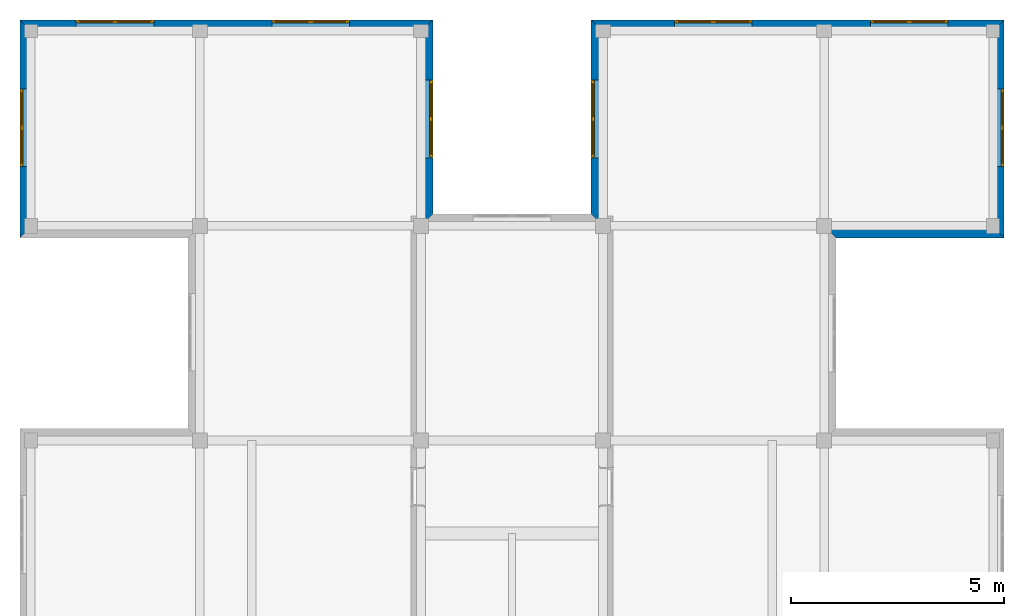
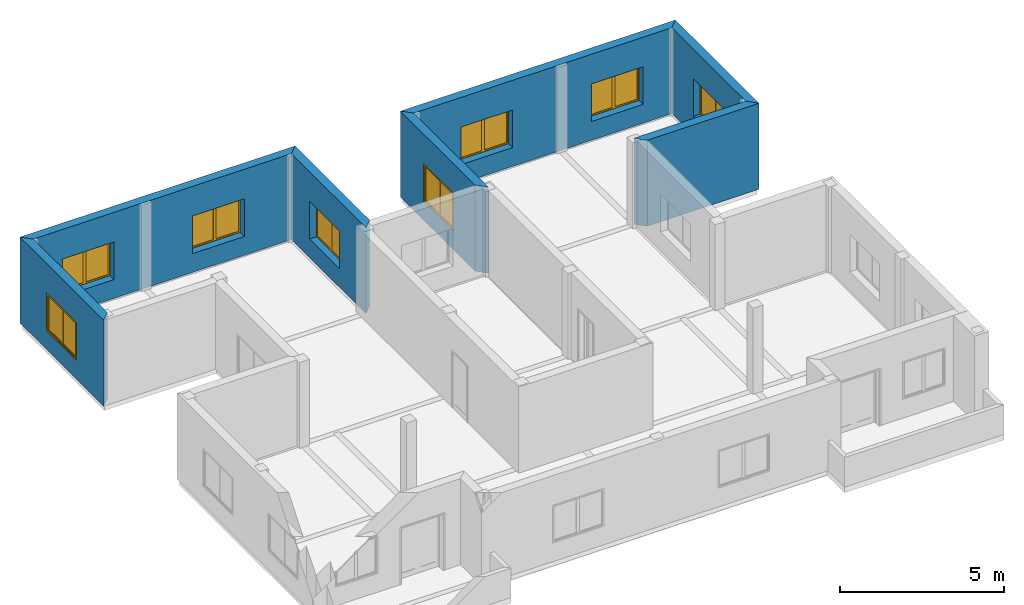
# One storey, part 6 of 6: 8 windows, 7 walls, 8 openings.
"""IFC2X3 building model written with IfcOpenShell, lengths in millimetres."""

import ifcopenshell
import ifcopenshell.guid

model = None  # the IFC model being written
_history = None  # IfcOwnerHistory: only IFC2X3 demands one
_inside = {}  # id of a spatial element -> (the spatial element, [elements in it])
_under = {}  # id of a project, library or spatial element -> (it, [spatial elements below it])
_declared = {}  # id of a project -> (the project, [libraries it declares])
_typed = {}  # id of a type object -> (the type object, [elements of that type])
_made_of = {}  # id of a material, layer set ... -> (it, [elements and type objects made of it])


def new_model(schema):
    """Start an empty IFC model of exactly this schema.

    Asked for "IFC4X3", IfcOpenShell would pick the latest addendum, in which some entities
    have other attributes; the version numbers below select the first issue.
    IFC2X3 requires an IfcOwnerHistory on every rooted entity: one is made here for all.
    """
    global model, _history
    if schema == "IFC4X3":
        model = ifcopenshell.file(schema_version=(4, 3, 0, 0))
    else:
        model = ifcopenshell.file(schema=schema)
    _inside.clear()
    _under.clear()
    _declared.clear()
    _typed.clear()
    _made_of.clear()
    _history = None
    if model.schema == "IFC2X3":
        org = make("IfcOrganization", Name="unknown")
        user = make(
            "IfcPersonAndOrganization",
            ThePerson=make("IfcPerson", FamilyName="unknown"),
            TheOrganization=org,
        )
        app = make(
            "IfcApplication",
            ApplicationDeveloper=org,
            Version="unknown",
            ApplicationFullName="unknown",
            ApplicationIdentifier="unknown",
        )
        _history = make(
            "IfcOwnerHistory",
            OwningUser=user,
            OwningApplication=app,
            ChangeAction="ADDED",
            CreationDate=0,
        )
    return model


def make(cls, **values):
    """One entity of the class cls with the attributes given. An attribute that is None is left unset."""
    return model.create_entity(
        cls, **{name: value for name, value in values.items() if value is not None}
    )


def entity(cls, *values):
    """Any entity or typed value of the class cls, its attributes in the order of the schema. None: left unset."""
    e = model.create_entity(cls)
    for i, value in enumerate(values):
        if value is not None:
            e[i] = value
    return e


def rooted(cls, **values):
    """An entity with a GlobalId (a new one), such as an element, a storey or a relation."""
    return make(cls, GlobalId=ifcopenshell.guid.new(), OwnerHistory=_history, **values)


def si_unit(unit_type, name, prefix=None):
    """IfcSIUnit, for example si_unit("LENGTHUNIT", "METRE", prefix="MILLI")."""
    return make("IfcSIUnit", UnitType=unit_type, Prefix=prefix, Name=name)


def converted_unit(unit_type, name, factor, base, dimensions=None, offset=None):
    """IfcConversionBasedUnit, such as the inch: factor (a typed value) times the base unit."""
    return make(
        "IfcConversionBasedUnit"
        if offset is None
        else "IfcConversionBasedUnitWithOffset",
        ConversionOffset=offset,
        Dimensions=None
        if dimensions is None
        else entity("IfcDimensionalExponents", *dimensions),
        UnitType=unit_type,
        Name=name,
        ConversionFactor=make(
            "IfcMeasureWithUnit", ValueComponent=factor, UnitComponent=base
        ),
    )


def assignment(units):
    """IfcUnitAssignment: the units of a project."""
    return None if units is None else make("IfcUnitAssignment", Units=units)


def point(xyz):
    """IfcCartesianPoint."""
    return None if xyz is None else make("IfcCartesianPoint", Coordinates=xyz)


def direction(xyz):
    """IfcDirection."""
    return None if xyz is None else make("IfcDirection", DirectionRatios=xyz)


def frame(location, z_axis=None, x_axis=None):
    """IfcAxis2Placement3D, a coordinate frame: its origin and axes. An axis left out is left unset."""
    return make(
        "IfcAxis2Placement3D",
        Location=point(location),
        Axis=direction(z_axis),
        RefDirection=direction(x_axis),
    )


def frame_2d(location, x_axis=None):
    """IfcAxis2Placement2D, a coordinate frame in the plane: its origin and x axis."""
    return make(
        "IfcAxis2Placement2D", Location=point(location), RefDirection=direction(x_axis)
    )


def origin_with_axes():
    """The frame at (0, 0, 0) with the z axis (0, 0, 1) and the x axis (1, 0, 0) written out."""
    return frame((0.0, 0.0, 0.0), z_axis=(0.0, 0.0, 1.0), x_axis=(1.0, 0.0, 0.0))


def origin_2d_with_axis():
    """The frame at (0, 0) in the plane with the x axis (1, 0) written out."""
    return frame_2d((0.0, 0.0), x_axis=(1.0, 0.0))


def place(relative_to, where):
    """IfcLocalPlacement: puts the frame where relative to a parent placement (None: the world)."""
    return make(
        "IfcLocalPlacement", PlacementRelTo=relative_to, RelativePlacement=where
    )


def context(
    kind, dimensions, precision=None, world=None, true_north=None, identifier=None
):
    """IfcGeometricRepresentationContext, for example the 3D "Model" context."""
    return make(
        "IfcGeometricRepresentationContext",
        ContextIdentifier=identifier,
        ContextType=kind,
        CoordinateSpaceDimension=dimensions,
        Precision=precision,
        WorldCoordinateSystem=world,
        TrueNorth=true_north,
    )


def subcontext(parent, identifier, kind, view, scale=None):
    """IfcGeometricRepresentationSubContext, for example "Body" below "Model"."""
    return make(
        "IfcGeometricRepresentationSubContext",
        ContextIdentifier=identifier,
        ContextType=kind,
        ParentContext=parent,
        TargetScale=scale,
        TargetView=view,
    )


def project(units=None, contexts=None):
    """IfcProject with its units and contexts."""
    return rooted(
        "IfcProject",
        Name="project",
        RepresentationContexts=contexts,
        UnitsInContext=assignment(units),
    )


def spatial(cls, under=None, at=None, **own):
    """A site, building, storey or space (cls), placed at a placement, below another one or the project."""
    s = rooted(cls, ObjectPlacement=at, **own)
    if under is not None:
        _under.setdefault(under.id(), (under, []))[1].append(s)
    return s


def polyline(points):
    """IfcPolyline through the points."""
    return make("IfcPolyline", Points=[point(p) for p in points])


def profile(cls, at=None, kind="AREA", **sizes):
    """A parametric profile (cls). Its sizes go by their IFC names, for example OverallWidth=200.0."""
    return make(cls, ProfileType=kind, Position=at, **sizes)


def rectangle(**sizes):
    """IfcRectangleProfileDef."""
    return profile("IfcRectangleProfileDef", **sizes)


def outline(outer, holes=None, kind="AREA"):
    """IfcArbitraryClosedProfileDef: a profile drawn as a closed curve; with holes, ...WithVoids."""
    if holes is None:
        return make("IfcArbitraryClosedProfileDef", ProfileType=kind, OuterCurve=outer)
    return make(
        "IfcArbitraryProfileDefWithVoids",
        ProfileType=kind,
        OuterCurve=outer,
        InnerCurves=holes,
    )


def extrude(swept, where, along, depth):
    """IfcExtrudedAreaSolid: the profile swept, set in the frame where, extruded along a direction by depth."""
    return make(
        "IfcExtrudedAreaSolid",
        SweptArea=swept,
        Position=where,
        ExtrudedDirection=direction(along),
        Depth=depth,
    )


def faces_of(points, faces, orient=None, outer=None):
    """IfcFace entities. A face is a list of loops; a loop is a list of indices into points, from 0.

    orient and outer hold one flag for each loop. By default every Orientation is true, the
    first loop of a face is its IfcFaceOuterBound and the others are IfcFaceBound.
    """
    made = []
    for i, loops in enumerate(faces):
        bounds = []
        for j, loop in enumerate(loops):
            is_outer = j == 0 if outer is None else outer[i][j]
            bounds.append(
                make(
                    "IfcFaceOuterBound" if is_outer else "IfcFaceBound",
                    Bound=make("IfcPolyLoop", Polygon=[points[k] for k in loop]),
                    Orientation=True if orient is None else orient[i][j],
                )
            )
        made.append(make("IfcFace", Bounds=bounds))
    return made


def faceted_brep(points, faces, orient=None, outer=None, voids=None):
    """IfcFacetedBrep: a solid bounded by flat faces; with voids (closed shells), ...WithVoids."""
    shared = [point(p) for p in points]
    hull = make("IfcClosedShell", CfsFaces=faces_of(shared, faces, orient, outer))
    if voids is None:
        return make("IfcFacetedBrep", Outer=hull)
    return make(
        "IfcFacetedBrepWithVoids",
        Outer=hull,
        Voids=[
            make(cls, CfsFaces=faces_of(shared, fs, o, b)) for cls, fs, o, b in voids
        ],
    )


def shape(context_of_items, identifier, shape_type, items):
    """IfcShapeRepresentation: the items that make up one representation, for example the "Body"."""
    return make(
        "IfcShapeRepresentation",
        ContextOfItems=context_of_items,
        RepresentationIdentifier=identifier,
        RepresentationType=shape_type,
        Items=items,
    )


def source(mapping_origin, context_of_items, identifier, shape_type, items):
    """IfcRepresentationMap: a shape defined once, which mapped items show again and again."""
    return make(
        "IfcRepresentationMap",
        MappingOrigin=mapping_origin,
        MappedRepresentation=shape(context_of_items, identifier, shape_type, items),
    )


def transform(
    local_origin,
    x_axis=None,
    y_axis=None,
    z_axis=None,
    scale=None,
    scale2=None,
    scale3=None,
    uniform=True,
):
    """IfcCartesianTransformationOperator3D, or its non-uniform kind. x_axis, y_axis, z_axis: its Axis1, 2, 3."""
    if uniform:
        return make(
            "IfcCartesianTransformationOperator3D",
            Axis1=direction(x_axis),
            Axis2=direction(y_axis),
            LocalOrigin=point(local_origin),
            Scale=scale,
            Axis3=direction(z_axis),
        )
    return make(
        "IfcCartesianTransformationOperator3DnonUniform",
        Axis1=direction(x_axis),
        Axis2=direction(y_axis),
        LocalOrigin=point(local_origin),
        Scale=scale,
        Axis3=direction(z_axis),
        Scale2=scale2,
        Scale3=scale3,
    )


def mapped(mapping_source, mapping_target):
    """IfcMappedItem: shows the shape of a source again, moved by a transform."""
    return make(
        "IfcMappedItem", MappingSource=mapping_source, MappingTarget=mapping_target
    )


def material(Name=None, Category=None):
    """IfcMaterial."""
    return make("IfcMaterial", Name=Name, Category=Category)


def layer(
    of_material, thickness, ventilated=None, Name=None, Category=None, Priority=None
):
    """IfcMaterialLayer: one layer of a wall or slab, of a material (None: an air gap)."""
    return make(
        "IfcMaterialLayer",
        Material=of_material,
        LayerThickness=thickness,
        IsVentilated=ventilated,
        Name=Name,
        Category=Category,
        Priority=Priority,
    )


def layer_set(layers, Name=None):
    """IfcMaterialLayerSet."""
    return make("IfcMaterialLayerSet", MaterialLayers=layers, LayerSetName=Name)


def layer_usage(for_layer_set, set_direction, sense, offset, extent=None):
    """IfcMaterialLayerSetUsage: how a layer set lies in its element."""
    return make(
        "IfcMaterialLayerSetUsage",
        ForLayerSet=for_layer_set,
        LayerSetDirection=set_direction,
        DirectionSense=sense,
        OffsetFromReferenceLine=offset,
        ReferenceExtent=extent,
    )


def made_of(thing, what):
    """Note that an element or type object is made of a material, layer set ...; save() writes the relation."""
    if what is not None:
        _made_of.setdefault(what.id(), (what, []))[1].append(thing)
    return thing


def type_object(cls, material=None, **own):
    """A type object (cls), such as IfcWallType, which elements share."""
    return made_of(rooted(cls, **own), material)


def element(
    cls,
    number,
    at=None,
    inside=None,
    cuts=None,
    type_object=None,
    material=None,
    context=None,
    identifier="Body",
    shape_type=None,
    held_by="IfcProductDefinitionShape",
    body=None,
    shapes=None,
    **own,
):
    """One element of the class cls, such as IfcWall. Its Tag is "e" and its number.

    at: its placement. inside: the storey or other place that contains it. cuts: it is an
    opening in that element (IfcRelVoidsElement). A single representation is given by context,
    identifier, shape_type and body (its items); several are given by shapes. held_by: the class
    of the entity that holds the representations. save() writes the other relations.
    """
    e = rooted(cls, Tag="e%d" % number, ObjectPlacement=at, **own)
    if body is not None:
        shapes = [shape(context, identifier, shape_type, body)]
    if shapes is not None:
        e.Representation = make(held_by, Representations=shapes)
    if inside is not None:
        _inside.setdefault(inside.id(), (inside, []))[1].append(e)
    if cuts is not None:
        rooted(
            "IfcRelVoidsElement", RelatingBuildingElement=cuts, RelatedOpeningElement=e
        )
    if type_object is not None:
        _typed.setdefault(type_object.id(), (type_object, []))[1].append(e)
    return made_of(e, material)


def fill(opening, filler):
    """IfcRelFillsElement: the door or window that sits in an opening."""
    return rooted(
        "IfcRelFillsElement",
        RelatingOpeningElement=opening,
        RelatedBuildingElement=filler,
    )


def aggregate(whole, parts):
    """IfcRelAggregates: a whole, such as a stair, and the parts it consists of."""
    return rooted("IfcRelAggregates", RelatingObject=whole, RelatedObjects=parts)


def save(model, path):
    """Write the relations noted so far, then the file.

    IfcRelAggregates (storeys below a building ...), IfcRelContainedInSpatialStructure (elements
    in a storey), IfcRelDefinesByType, IfcRelAssociatesMaterial and IfcRelDeclares: one each for
    every whole, place, type object, material and project.
    """
    for whole, parts in _under.values():
        aggregate(whole, parts)
    for where, things in _inside.values():
        rooted(
            "IfcRelContainedInSpatialStructure",
            RelatedElements=things,
            RelatingStructure=where,
        )
    for kind, things in _typed.values():
        rooted("IfcRelDefinesByType", RelatedObjects=things, RelatingType=kind)
    for what, things in _made_of.values():
        rooted("IfcRelAssociatesMaterial", RelatedObjects=things, RelatingMaterial=what)
    for by, libraries in _declared.values():
        rooted("IfcRelDeclares", RelatingContext=by, RelatedDefinitions=libraries)
    model.write(path)


model = new_model("IFC2X3")

# Units and contexts
model_context = context("Model", 3, precision=1e-05, world=origin_with_axes(), true_north=direction((0.0, 1.0)))
body_context = subcontext(model_context, "Body", "Model", "MODEL_VIEW")
ifc_project = project(units=[si_unit("LENGTHUNIT", "METRE", prefix="MILLI"), si_unit("AREAUNIT", "SQUARE_METRE"), si_unit("VOLUMEUNIT", "CUBIC_METRE"), converted_unit("PLANEANGLEUNIT", "DEGREE", entity("IfcPlaneAngleMeasure", 0.017453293), si_unit("PLANEANGLEUNIT", "RADIAN"), dimensions=[0, 0, 0, 0, 0, 0, 0]), si_unit("SOLIDANGLEUNIT", "STERADIAN"), si_unit("MASSUNIT", "GRAM"), si_unit("TIMEUNIT", "SECOND"), si_unit("THERMODYNAMICTEMPERATUREUNIT", "DEGREE_CELSIUS"), si_unit("LUMINOUSINTENSITYUNIT", "LUMEN")], contexts=[model_context])

# Site, building, storey
site_placement = place(None, origin_with_axes())
site = spatial("IfcSite", under=ifc_project, at=site_placement, Name="Sitio", CompositionType="ELEMENT")
building_placement = place(site_placement, origin_with_axes())
building = spatial("IfcBuilding", under=site, at=building_placement, Name="Ejemplo_StruBIM", CompositionType="ELEMENT")
storey_placement = place(building_placement, frame((0.0, 0.0, 6400.8), z_axis=(0.0, 0.0, 1.0), x_axis=(1.0, 0.0, 0.0)))
storey = spatial("IfcBuildingStorey", under=building, at=storey_placement, Name="Second floor", CompositionType="ELEMENT", Elevation=6400.8)

# Wall, opening, window
ifc_material_1 = material(Name="Bloque mampostería")
ifc_layer = layer(ifc_material_1, 300.0, ventilated="UNKNOWN")
ifc_layer_set = layer_set([ifc_layer], Name="Bloque mampostería 300")
ifc_layer_usage_1 = layer_usage(ifc_layer_set, "AXIS2", "POSITIVE", 0.0)
wall_type = type_object("IfcWallType", Name="Bloque mampostería 11 3/4\"", PredefinedType="NOTDEFINED")
wall_1_placement = place(storey_placement, frame((-254.0, 18846.8, 0.0), z_axis=(0.0, 0.0, 1.0), x_axis=(0.0, -1.0, 0.0)))
wall_1 = element("IfcWallStandardCase", 1, at=wall_1_placement, inside=storey, type_object=wall_type, material=ifc_layer_usage_1, Name="Muro-006", context=body_context, shape_type="SweptSolid", body=[
    extrude(outline(polyline([(0.0, 0.0), (5105.4, 0.0), (4805.4, 300.0), (300.0, 300.0), (0.0, 0.0)])), origin_with_axes(), (0.0, 0.0, 1.0), 3200.4),
])
opening_1_placement = place(wall_1_placement, frame((2522.9, 0.0, 700.0), z_axis=(0.0, 0.0, 1.0), x_axis=(1.0, 0.0, 0.0)))
opening_1 = element("IfcOpeningElement", 2, at=opening_1_placement, cuts=wall_1, Name="V05", context=body_context, shape_type="SweptSolid", body=[
    extrude(rectangle(XDim=1820.0, YDim=1400.0, at=origin_2d_with_axis()), frame((0.0, 300.0, 700.0), z_axis=(0.0, 1.0, 0.0), x_axis=(1.0, 0.0, 0.0)), (0.0, 0.0, -1.0), 300.0),
])
ifc_material_2 = material(Name="Fondo")
window_style = type_object("IfcWindowStyle", Name="Ventana Doble Hoja 16", ConstructionType="NOTDEFINED", OperationType="DOUBLE_PANEL_HORIZONTAL", ParameterTakesPrecedence=False, Sizeable=False)
shared_shape_1 = source(origin_with_axes(), body_context, "Body", "Brep", [
    faceted_brep([(885.0, -50.0, 1350.0), (910.0, -50.0, 1350.0), (910.0, 0.0, 1350.0), (860.0, 0.0, 1350.0), (860.0, -25.0, 1350.0), (885.0, -25.0, 1350.0), (885.0, -50.0, 50.0), (910.0, -50.0, 50.0), (910.0, 0.0, 50.0), (860.0, 0.0, 50.0), (860.0, -25.0, 50.0), (885.0, -25.0, 50.0)], [[[0, 1, 2, 3, 4, 5]], [[6, 7, 1, 0]], [[1, 7, 8, 2]], [[2, 8, 9, 3]], [[4, 3, 9, 10]], [[10, 11, 5, 4]], [[5, 11, 6, 0]], [[11, 10, 9, 8, 7, 6]]]),
    faceted_brep([(-860.0, -25.0, 1350.0), (-860.0, 0.0, 1350.0), (-910.0, 0.0, 1350.0), (-910.0, -50.0, 1350.0), (-885.0, -50.0, 1350.0), (-885.0, -25.0, 1350.0), (-860.0, -25.0, 50.0), (-860.0, 0.0, 50.0), (-910.0, 0.0, 50.0), (-910.0, -50.0, 50.0), (-885.0, -50.0, 50.0), (-885.0, -25.0, 50.0)], [[[0, 1, 2, 3, 4, 5]], [[6, 7, 1, 0]], [[8, 2, 1, 7]], [[9, 3, 2, 8]], [[4, 3, 9, 10]], [[10, 11, 5, 4]], [[5, 11, 6, 0]], [[11, 10, 9, 8, 7, 6]]]),
    faceted_brep([(-860.0, -25.0, 50.0), (-860.0, 0.0, 50.0), (-910.0, 0.0, 50.0), (-910.0, -50.0, 50.0), (-885.0, -50.0, 50.0), (-885.0, -25.0, 50.0), (860.0, -25.0, 50.0), (860.0, 0.0, 50.0), (910.0, 0.0, 50.0), (910.0, 0.0, 0.0), (-910.0, 0.0, 0.0), (-910.0, -50.0, 0.0), (885.0, -50.0, 25.0), (-885.0, -50.0, 25.0), (910.0, -50.0, 0.0), (910.0, -50.0, 50.0), (885.0, -50.0, 50.0), (-885.0, -25.0, 25.0), (885.0, -25.0, 25.0), (885.0, -25.0, 50.0)], [[[0, 1, 2, 3, 4, 5]], [[6, 7, 1, 0]], [[8, 9, 10, 2, 1, 7]], [[11, 3, 2, 10]], [[12, 13, 4, 3, 11, 14, 15, 16]], [[13, 17, 5, 4]], [[5, 17, 18, 19, 6, 0]], [[19, 16, 15, 8, 7, 6]], [[15, 14, 9, 8]], [[14, 11, 10, 9]], [[12, 18, 17, 13]], [[19, 18, 12, 16]]]),
    faceted_brep([(885.0, -50.0, 1350.0), (910.0, -50.0, 1350.0), (910.0, -50.0, 1400.0), (-910.0, -50.0, 1400.0), (-910.0, -50.0, 1350.0), (-885.0, -50.0, 1350.0), (-885.0, -50.0, 1375.0), (885.0, -50.0, 1375.0), (885.0, -25.0, 1350.0), (860.0, -25.0, 1350.0), (860.0, 0.0, 1350.0), (910.0, 0.0, 1350.0), (910.0, 0.0, 1400.0), (-910.0, 0.0, 1400.0), (-910.0, 0.0, 1350.0), (-885.0, -25.0, 1350.0), (-860.0, 0.0, 1350.0), (-860.0, -25.0, 1350.0), (-885.0, -25.0, 1375.0), (885.0, -25.0, 1375.0)], [[[0, 1, 2, 3, 4, 5, 6, 7]], [[8, 9, 10, 11, 1, 0]], [[2, 1, 11, 12]], [[3, 2, 12, 13]], [[4, 3, 13, 14]], [[15, 5, 4, 14, 16, 17]], [[5, 15, 18, 6]], [[6, 18, 19, 7]], [[7, 19, 8, 0]], [[17, 9, 8, 19, 18, 15]], [[17, 16, 10, 9]], [[14, 13, 12, 11, 10, 16]]]),
    faceted_brep([(835.0, -25.0, 1325.0), (835.0, -75.0, 1325.0), (885.0, -75.0, 1325.0), (885.0, -25.0, 1325.0), (835.0, -25.0, 75.0), (835.0, -75.0, 75.0), (885.0, -75.0, 75.0), (885.0, -25.0, 75.0)], [[[0, 1, 2, 3]], [[4, 5, 1, 0]], [[1, 5, 6, 2]], [[3, 2, 6, 7]], [[0, 3, 7, 4]], [[7, 6, 5, 4]]]),
    faceted_brep([(50.0, -25.0, 75.0), (50.0, -75.0, 75.0), (0.0, -75.0, 75.0), (0.0, -25.0, 75.0), (50.0, -25.0, 1325.0), (50.0, -75.0, 1325.0), (0.0, -75.0, 1325.0), (0.0, -25.0, 1325.0)], [[[0, 1, 2, 3]], [[4, 5, 1, 0]], [[1, 5, 6, 2]], [[3, 2, 6, 7]], [[0, 3, 7, 4]], [[7, 6, 5, 4]]]),
    faceted_brep([(0.0, -25.0, 25.0), (0.0, -75.0, 25.0), (0.0, -75.0, 75.0), (0.0, -25.0, 75.0), (885.0, -25.0, 25.0), (885.0, -75.0, 25.0), (885.0, -75.0, 75.0), (835.0, -75.0, 75.0), (50.0, -75.0, 75.0), (50.0, -25.0, 75.0), (835.0, -25.0, 75.0), (885.0, -25.0, 75.0)], [[[0, 1, 2, 3]], [[4, 5, 1, 0]], [[1, 5, 6, 7, 8, 2]], [[3, 2, 8, 9]], [[0, 3, 9, 10, 11, 4]], [[11, 6, 5, 4]], [[10, 7, 6, 11]], [[9, 8, 7, 10]]]),
    faceted_brep([(885.0, -25.0, 1375.0), (885.0, -75.0, 1375.0), (885.0, -75.0, 1325.0), (885.0, -25.0, 1325.0), (0.0, -25.0, 1375.0), (0.0, -75.0, 1375.0), (0.0, -75.0, 1325.0), (50.0, -75.0, 1325.0), (835.0, -75.0, 1325.0), (835.0, -25.0, 1325.0), (50.0, -25.0, 1325.0), (0.0, -25.0, 1325.0)], [[[0, 1, 2, 3]], [[4, 5, 1, 0]], [[1, 5, 6, 7, 8, 2]], [[3, 2, 8, 9]], [[0, 3, 9, 10, 11, 4]], [[11, 6, 5, 4]], [[10, 7, 6, 11]], [[9, 8, 7, 10]]]),
    faceted_brep([(835.0, -40.0, 75.0), (835.0, -60.0, 75.0), (50.0, -60.0, 75.0), (50.0, -40.0, 75.0), (835.0, -40.0, 1325.0), (835.0, -60.0, 1325.0), (50.0, -60.0, 1325.0), (50.0, -40.0, 1325.0)], [[[0, 1, 2, 3]], [[4, 5, 1, 0]], [[1, 5, 6, 2]], [[3, 2, 6, 7]], [[0, 3, 7, 4]], [[7, 6, 5, 4]]]),
    faceted_brep([(-50.0, -25.0, 1325.0), (-50.0, -75.0, 1325.0), (0.0, -75.0, 1325.0), (0.0, -25.0, 1325.0), (-50.0, -25.0, 75.0), (-50.0, -75.0, 75.0), (0.0, -75.0, 75.0), (0.0, -25.0, 75.0)], [[[0, 1, 2, 3]], [[4, 5, 1, 0]], [[1, 5, 6, 2]], [[3, 2, 6, 7]], [[0, 3, 7, 4]], [[7, 6, 5, 4]]]),
    faceted_brep([(-835.0, -25.0, 75.0), (-835.0, -75.0, 75.0), (-885.0, -75.0, 75.0), (-885.0, -25.0, 75.0), (-835.0, -25.0, 1325.0), (-835.0, -75.0, 1325.0), (-885.0, -75.0, 1325.0), (-885.0, -25.0, 1325.0)], [[[0, 1, 2, 3]], [[4, 5, 1, 0]], [[1, 5, 6, 2]], [[3, 2, 6, 7]], [[0, 3, 7, 4]], [[7, 6, 5, 4]]]),
    faceted_brep([(-885.0, -25.0, 25.0), (-885.0, -75.0, 25.0), (-885.0, -75.0, 75.0), (-885.0, -25.0, 75.0), (0.0, -25.0, 25.0), (0.0, -75.0, 25.0), (0.0, -75.0, 75.0), (-50.0, -75.0, 75.0), (-835.0, -75.0, 75.0), (-835.0, -25.0, 75.0), (-50.0, -25.0, 75.0), (0.0, -25.0, 75.0)], [[[0, 1, 2, 3]], [[4, 5, 1, 0]], [[1, 5, 6, 7, 8, 2]], [[3, 2, 8, 9]], [[0, 3, 9, 10, 11, 4]], [[11, 6, 5, 4]], [[10, 7, 6, 11]], [[9, 8, 7, 10]]]),
    faceted_brep([(0.0, -25.0, 1375.0), (0.0, -75.0, 1375.0), (0.0, -75.0, 1325.0), (0.0, -25.0, 1325.0), (-885.0, -25.0, 1375.0), (-885.0, -75.0, 1375.0), (-885.0, -75.0, 1325.0), (-835.0, -75.0, 1325.0), (-50.0, -75.0, 1325.0), (-50.0, -25.0, 1325.0), (-835.0, -25.0, 1325.0), (-885.0, -25.0, 1325.0)], [[[0, 1, 2, 3]], [[4, 5, 1, 0]], [[1, 5, 6, 7, 8, 2]], [[3, 2, 8, 9]], [[0, 3, 9, 10, 11, 4]], [[11, 6, 5, 4]], [[10, 7, 6, 11]], [[9, 8, 7, 10]]]),
    faceted_brep([(-50.0, -40.0, 75.0), (-50.0, -60.0, 75.0), (-835.0, -60.0, 75.0), (-835.0, -40.0, 75.0), (-50.0, -40.0, 1325.0), (-50.0, -60.0, 1325.0), (-835.0, -60.0, 1325.0), (-835.0, -40.0, 1325.0)], [[[0, 1, 2, 3]], [[4, 5, 1, 0]], [[1, 5, 6, 2]], [[3, 2, 6, 7]], [[0, 3, 7, 4]], [[7, 6, 5, 4]]]),
])
window_1_placement = place(opening_1_placement, frame((910.0, 0.0, 0.0), z_axis=(0.0, 0.0, 1.0), x_axis=(-1.0, 0.0, 0.0)))
window_1 = element("IfcWindow", 3, at=window_1_placement, inside=storey, type_object=window_style, material=ifc_material_2, Name="V05", OverallHeight=1400.0, OverallWidth=1820.0, context=body_context, shape_type="MappedRepresentation", body=[
    mapped(shared_shape_1, transform((910.0, 0.0, 0.0))),
])
fill(opening_1, window_1)

# Wall, openings, windows
ifc_layer_usage_2 = layer_usage(ifc_layer_set, "AXIS2", "POSITIVE", 0.0)
wall_2_placement = place(storey_placement, frame((9423.4, 18846.8, 0.0), z_axis=(0.0, 0.0, 1.0), x_axis=(-1.0, 0.0, 0.0)))
wall_2 = element("IfcWallStandardCase", 4, at=wall_2_placement, inside=storey, type_object=wall_type, material=ifc_layer_usage_2, Name="Muro-007", context=body_context, shape_type="SweptSolid", body=[
    extrude(outline(polyline([(0.0, 0.0), (9677.4, 0.0), (9377.4, 300.0), (300.0, 300.0), (0.0, 0.0)])), origin_with_axes(), (0.0, 0.0, 1.0), 3200.4),
])
opening_2_placement = place(wall_2_placement, frame((2865.8, 0.0, 700.0), z_axis=(0.0, 0.0, 1.0), x_axis=(1.0, 0.0, 0.0)))
opening_2 = element("IfcOpeningElement", 5, at=opening_2_placement, cuts=wall_2, Name="V03", context=body_context, shape_type="SweptSolid", body=[
    extrude(rectangle(XDim=1820.0, YDim=1400.0, at=origin_2d_with_axis()), frame((0.0, 300.0, 700.0), z_axis=(0.0, 1.0, 0.0), x_axis=(1.0, 0.0, 0.0)), (0.0, 0.0, -1.0), 300.0),
])
opening_3_placement = place(wall_2_placement, frame((7450.5, 0.0, 700.0), z_axis=(0.0, 0.0, 1.0), x_axis=(1.0, 0.0, 0.0)))
opening_3 = element("IfcOpeningElement", 6, at=opening_3_placement, cuts=wall_2, Name="V04", context=body_context, shape_type="SweptSolid", body=[
    extrude(rectangle(XDim=1820.0, YDim=1400.0, at=origin_2d_with_axis()), frame((0.0, 300.0, 700.0), z_axis=(0.0, -1.0, 0.0), x_axis=(1.0, 0.0, 0.0)), (0.0, 0.0, 1.0), 300.0),
])
shared_shape_2 = source(origin_with_axes(), body_context, "Body", "Brep", [
    faceted_brep([(-885.0, -50.0, 1350.0), (-885.0, -25.0, 1350.0), (-860.0, -25.0, 1350.0), (-860.0, 0.0, 1350.0), (-910.0, 0.0, 1350.0), (-910.0, -50.0, 1350.0), (-885.0, -50.0, 50.0), (-885.0, -25.0, 50.0), (-860.0, -25.0, 50.0), (-860.0, 0.0, 50.0), (-910.0, 0.0, 50.0), (-910.0, -50.0, 50.0)], [[[0, 1, 2, 3, 4, 5]], [[1, 0, 6, 7]], [[8, 2, 1, 7]], [[2, 8, 9, 3]], [[4, 3, 9, 10]], [[5, 4, 10, 11]], [[6, 0, 5, 11]], [[7, 6, 11, 10, 9, 8]]]),
    faceted_brep([(860.0, -25.0, 1350.0), (885.0, -25.0, 1350.0), (885.0, -50.0, 1350.0), (910.0, -50.0, 1350.0), (910.0, 0.0, 1350.0), (860.0, 0.0, 1350.0), (860.0, -25.0, 50.0), (885.0, -25.0, 50.0), (885.0, -50.0, 50.0), (910.0, -50.0, 50.0), (910.0, 0.0, 50.0), (860.0, 0.0, 50.0)], [[[0, 1, 2, 3, 4, 5]], [[1, 0, 6, 7]], [[8, 2, 1, 7]], [[2, 8, 9, 3]], [[9, 10, 4, 3]], [[10, 11, 5, 4]], [[6, 0, 5, 11]], [[7, 6, 11, 10, 9, 8]]]),
    faceted_brep([(860.0, -25.0, 50.0), (885.0, -25.0, 50.0), (885.0, -50.0, 50.0), (910.0, -50.0, 50.0), (910.0, 0.0, 50.0), (860.0, 0.0, 50.0), (-860.0, -25.0, 50.0), (-885.0, -25.0, 50.0), (-885.0, -25.0, 25.0), (885.0, -25.0, 25.0), (885.0, -50.0, 25.0), (-885.0, -50.0, 25.0), (-885.0, -50.0, 50.0), (-910.0, -50.0, 50.0), (-910.0, -50.0, 0.0), (910.0, -50.0, 0.0), (910.0, 0.0, 0.0), (-910.0, 0.0, 50.0), (-860.0, 0.0, 50.0), (-910.0, 0.0, 0.0)], [[[0, 1, 2, 3, 4, 5]], [[1, 0, 6, 7, 8, 9]], [[10, 2, 1, 9]], [[11, 12, 13, 14, 15, 3, 2, 10]], [[15, 16, 4, 3]], [[17, 18, 5, 4, 16, 19]], [[6, 0, 5, 18]], [[7, 6, 18, 17, 13, 12]], [[7, 12, 11, 8]], [[11, 10, 9, 8]], [[13, 17, 19, 14]], [[14, 19, 16, 15]]]),
    faceted_brep([(-885.0, -50.0, 1350.0), (-885.0, -50.0, 1375.0), (885.0, -50.0, 1375.0), (885.0, -50.0, 1350.0), (910.0, -50.0, 1350.0), (910.0, -50.0, 1400.0), (-910.0, -50.0, 1400.0), (-910.0, -50.0, 1350.0), (-885.0, -25.0, 1350.0), (-885.0, -25.0, 1375.0), (885.0, -25.0, 1375.0), (885.0, -25.0, 1350.0), (860.0, -25.0, 1350.0), (860.0, 0.0, 1350.0), (910.0, 0.0, 1350.0), (910.0, 0.0, 1400.0), (-910.0, 0.0, 1400.0), (-910.0, 0.0, 1350.0), (-860.0, 0.0, 1350.0), (-860.0, -25.0, 1350.0)], [[[0, 1, 2, 3, 4, 5, 6, 7]], [[1, 0, 8, 9]], [[2, 1, 9, 10]], [[3, 2, 10, 11]], [[11, 12, 13, 14, 4, 3]], [[4, 14, 15, 5]], [[5, 15, 16, 6]], [[6, 16, 17, 7]], [[8, 0, 7, 17, 18, 19]], [[12, 11, 10, 9, 8, 19]], [[12, 19, 18, 13]], [[14, 13, 18, 17, 16, 15]]]),
    faceted_brep([(-835.0, -25.0, 1325.0), (-885.0, -25.0, 1325.0), (-885.0, -75.0, 1325.0), (-835.0, -75.0, 1325.0), (-835.0, -25.0, 75.0), (-885.0, -25.0, 75.0), (-885.0, -75.0, 75.0), (-835.0, -75.0, 75.0)], [[[0, 1, 2, 3]], [[0, 4, 5, 1]], [[1, 5, 6, 2]], [[3, 2, 6, 7]], [[4, 0, 3, 7]], [[5, 4, 7, 6]]]),
    faceted_brep([(-50.0, -25.0, 75.0), (0.0, -25.0, 75.0), (0.0, -75.0, 75.0), (-50.0, -75.0, 75.0), (-50.0, -25.0, 1325.0), (0.0, -25.0, 1325.0), (0.0, -75.0, 1325.0), (-50.0, -75.0, 1325.0)], [[[0, 1, 2, 3]], [[0, 4, 5, 1]], [[1, 5, 6, 2]], [[3, 2, 6, 7]], [[4, 0, 3, 7]], [[5, 4, 7, 6]]]),
    faceted_brep([(0.0, -25.0, 25.0), (0.0, -25.0, 75.0), (0.0, -75.0, 75.0), (0.0, -75.0, 25.0), (-885.0, -25.0, 25.0), (-885.0, -25.0, 75.0), (-835.0, -25.0, 75.0), (-50.0, -25.0, 75.0), (-50.0, -75.0, 75.0), (-835.0, -75.0, 75.0), (-885.0, -75.0, 75.0), (-885.0, -75.0, 25.0)], [[[0, 1, 2, 3]], [[0, 4, 5, 6, 7, 1]], [[1, 7, 8, 2]], [[3, 2, 8, 9, 10, 11]], [[4, 0, 3, 11]], [[5, 4, 11, 10]], [[6, 5, 10, 9]], [[7, 6, 9, 8]]]),
    faceted_brep([(-885.0, -25.0, 1375.0), (-885.0, -25.0, 1325.0), (-885.0, -75.0, 1325.0), (-885.0, -75.0, 1375.0), (0.0, -25.0, 1375.0), (0.0, -25.0, 1325.0), (-50.0, -25.0, 1325.0), (-835.0, -25.0, 1325.0), (-835.0, -75.0, 1325.0), (-50.0, -75.0, 1325.0), (0.0, -75.0, 1325.0), (0.0, -75.0, 1375.0)], [[[0, 1, 2, 3]], [[0, 4, 5, 6, 7, 1]], [[1, 7, 8, 2]], [[3, 2, 8, 9, 10, 11]], [[4, 0, 3, 11]], [[5, 4, 11, 10]], [[6, 5, 10, 9]], [[7, 6, 9, 8]]]),
    faceted_brep([(-835.0, -40.0, 75.0), (-50.0, -40.0, 75.0), (-50.0, -60.0, 75.0), (-835.0, -60.0, 75.0), (-835.0, -40.0, 1325.0), (-50.0, -40.0, 1325.0), (-50.0, -60.0, 1325.0), (-835.0, -60.0, 1325.0)], [[[0, 1, 2, 3]], [[0, 4, 5, 1]], [[1, 5, 6, 2]], [[3, 2, 6, 7]], [[4, 0, 3, 7]], [[5, 4, 7, 6]]]),
    faceted_brep([(50.0, -25.0, 1325.0), (0.0, -25.0, 1325.0), (0.0, -75.0, 1325.0), (50.0, -75.0, 1325.0), (50.0, -25.0, 75.0), (0.0, -25.0, 75.0), (0.0, -75.0, 75.0), (50.0, -75.0, 75.0)], [[[0, 1, 2, 3]], [[0, 4, 5, 1]], [[1, 5, 6, 2]], [[3, 2, 6, 7]], [[4, 0, 3, 7]], [[5, 4, 7, 6]]]),
    faceted_brep([(835.0, -25.0, 75.0), (885.0, -25.0, 75.0), (885.0, -75.0, 75.0), (835.0, -75.0, 75.0), (835.0, -25.0, 1325.0), (885.0, -25.0, 1325.0), (885.0, -75.0, 1325.0), (835.0, -75.0, 1325.0)], [[[0, 1, 2, 3]], [[0, 4, 5, 1]], [[1, 5, 6, 2]], [[3, 2, 6, 7]], [[4, 0, 3, 7]], [[5, 4, 7, 6]]]),
    faceted_brep([(885.0, -25.0, 25.0), (885.0, -25.0, 75.0), (885.0, -75.0, 75.0), (885.0, -75.0, 25.0), (0.0, -25.0, 25.0), (0.0, -25.0, 75.0), (50.0, -25.0, 75.0), (835.0, -25.0, 75.0), (835.0, -75.0, 75.0), (50.0, -75.0, 75.0), (0.0, -75.0, 75.0), (0.0, -75.0, 25.0)], [[[0, 1, 2, 3]], [[0, 4, 5, 6, 7, 1]], [[1, 7, 8, 2]], [[3, 2, 8, 9, 10, 11]], [[4, 0, 3, 11]], [[5, 4, 11, 10]], [[6, 5, 10, 9]], [[7, 6, 9, 8]]]),
    faceted_brep([(0.0, -25.0, 1375.0), (0.0, -25.0, 1325.0), (0.0, -75.0, 1325.0), (0.0, -75.0, 1375.0), (885.0, -25.0, 1375.0), (885.0, -25.0, 1325.0), (835.0, -25.0, 1325.0), (50.0, -25.0, 1325.0), (50.0, -75.0, 1325.0), (835.0, -75.0, 1325.0), (885.0, -75.0, 1325.0), (885.0, -75.0, 1375.0)], [[[0, 1, 2, 3]], [[0, 4, 5, 6, 7, 1]], [[1, 7, 8, 2]], [[3, 2, 8, 9, 10, 11]], [[4, 0, 3, 11]], [[5, 4, 11, 10]], [[6, 5, 10, 9]], [[7, 6, 9, 8]]]),
    faceted_brep([(50.0, -40.0, 75.0), (835.0, -40.0, 75.0), (835.0, -60.0, 75.0), (50.0, -60.0, 75.0), (50.0, -40.0, 1325.0), (835.0, -40.0, 1325.0), (835.0, -60.0, 1325.0), (50.0, -60.0, 1325.0)], [[[0, 1, 2, 3]], [[0, 4, 5, 1]], [[1, 5, 6, 2]], [[3, 2, 6, 7]], [[4, 0, 3, 7]], [[5, 4, 7, 6]]]),
])
window_2_placement = place(opening_3_placement, frame((910.0, 0.0, 0.0), z_axis=(0.0, 0.0, 1.0), x_axis=(-1.0, 0.0, 0.0)))
window_2 = element("IfcWindow", 7, at=window_2_placement, inside=storey, type_object=window_style, material=ifc_material_2, Name="V04", OverallHeight=1400.0, OverallWidth=1820.0, context=body_context, shape_type="MappedRepresentation", body=[
    mapped(shared_shape_2, transform((910.0, 0.0, 0.0))),
])
fill(opening_3, window_2)
window_3_placement = place(opening_2_placement, frame((910.0, 0.0, 0.0), z_axis=(0.0, 0.0, 1.0), x_axis=(-1.0, 0.0, 0.0)))
window_3 = element("IfcWindow", 8, at=window_3_placement, inside=storey, type_object=window_style, material=ifc_material_2, Name="V03", OverallHeight=1400.0, OverallWidth=1820.0, context=body_context, shape_type="MappedRepresentation", body=[
    mapped(shared_shape_1, transform((910.0, 0.0, 0.0))),
])
fill(opening_2, window_3)

# Wall, opening, window
ifc_layer_usage_3 = layer_usage(ifc_layer_set, "AXIS2", "POSITIVE", 0.0)
wall_3_placement = place(storey_placement, frame((9423.4, 14300.2, 0.0), z_axis=(0.0, 0.0, 1.0), x_axis=(0.0, 1.0, 0.0)))
wall_3 = element("IfcWallStandardCase", 9, at=wall_3_placement, inside=storey, type_object=wall_type, material=ifc_layer_usage_3, Name="Muro-009", context=body_context, shape_type="SweptSolid", body=[
    extrude(outline(polyline([(0.0, 0.0), (4546.6, 0.0), (4246.6, 300.0), (-300.0, 300.0), (0.0, 0.0)])), origin_with_axes(), (0.0, 0.0, 1.0), 3200.4),
])
opening_4_placement = place(wall_3_placement, frame((2226.9, 0.0, 700.0), z_axis=(0.0, 0.0, 1.0), x_axis=(1.0, 0.0, 0.0)))
opening_4 = element("IfcOpeningElement", 10, at=opening_4_placement, cuts=wall_3, Name="V08", context=body_context, shape_type="SweptSolid", body=[
    extrude(rectangle(XDim=1820.0, YDim=1400.0, at=origin_2d_with_axis()), frame((0.0, 300.0, 700.0), z_axis=(0.0, -1.0, 0.0), x_axis=(1.0, 0.0, 0.0)), (0.0, 0.0, 1.0), 300.0),
])
window_4_placement = place(opening_4_placement, frame((910.0, 0.0, 0.0), z_axis=(0.0, 0.0, 1.0), x_axis=(-1.0, 0.0, 0.0)))
window_4 = element("IfcWindow", 11, at=window_4_placement, inside=storey, type_object=window_style, material=ifc_material_2, Name="V08", OverallHeight=1400.0, OverallWidth=1820.0, context=body_context, shape_type="MappedRepresentation", body=[
    mapped(shared_shape_2, transform((910.0, 0.0, 0.0))),
])
fill(opening_4, window_4)

ifc_layer_usage_4 = layer_usage(ifc_layer_set, "AXIS2", "POSITIVE", 0.0)
wall_4_placement = place(storey_placement, frame((13131.8, 18846.8, 0.0), z_axis=(0.0, 0.0, 1.0), x_axis=(0.0, -1.0, 0.0)))
wall_4 = element("IfcWallStandardCase", 12, at=wall_4_placement, inside=storey, type_object=wall_type, material=ifc_layer_usage_4, Name="Muro-010", context=body_context, shape_type="SweptSolid", body=[
    extrude(outline(polyline([(0.0, 0.0), (4546.6, 0.0), (4846.6, 300.0), (300.0, 300.0), (0.0, 0.0)])), origin_with_axes(), (0.0, 0.0, 1.0), 3200.4),
])
opening_5_placement = place(wall_4_placement, frame((2319.7, 0.0, 700.0), z_axis=(0.0, 0.0, 1.0), x_axis=(1.0, 0.0, 0.0)))
opening_5 = element("IfcOpeningElement", 13, at=opening_5_placement, cuts=wall_4, Name="V09", context=body_context, shape_type="SweptSolid", body=[
    extrude(rectangle(XDim=1820.0, YDim=1400.0, at=origin_2d_with_axis()), frame((0.0, 300.0, 700.0), z_axis=(0.0, 1.0, 0.0), x_axis=(1.0, 0.0, 0.0)), (0.0, 0.0, -1.0), 300.0),
])
window_5_placement = place(opening_5_placement, frame((910.0, 0.0, 0.0), z_axis=(0.0, 0.0, 1.0), x_axis=(-1.0, 0.0, 0.0)))
window_5 = element("IfcWindow", 14, at=window_5_placement, inside=storey, type_object=window_style, material=ifc_material_2, Name="V09", OverallHeight=1400.0, OverallWidth=1820.0, context=body_context, shape_type="MappedRepresentation", body=[
    mapped(shared_shape_1, transform((910.0, 0.0, 0.0))),
])
fill(opening_5, window_5)

# Wall, openings, windows
ifc_layer_usage_5 = layer_usage(ifc_layer_set, "AXIS2", "POSITIVE", 0.0)
wall_5_placement = place(storey_placement, frame((22809.2, 18846.8, 0.0), z_axis=(0.0, 0.0, 1.0), x_axis=(-1.0, 0.0, 0.0)))
wall_5 = element("IfcWallStandardCase", 15, at=wall_5_placement, inside=storey, type_object=wall_type, material=ifc_layer_usage_5, Name="Muro-011", context=body_context, shape_type="SweptSolid", body=[
    extrude(outline(polyline([(0.0, 0.0), (9677.4, 0.0), (9377.4, 300.0), (300.0, 300.0), (0.0, 0.0)])), origin_with_axes(), (0.0, 0.0, 1.0), 3200.4),
])
opening_6_placement = place(wall_5_placement, frame((6811.6, 0.0, 700.0), z_axis=(0.0, 0.0, 1.0), x_axis=(1.0, 0.0, 0.0)))
opening_6 = element("IfcOpeningElement", 16, at=opening_6_placement, cuts=wall_5, Name="V11", context=body_context, shape_type="SweptSolid", body=[
    extrude(rectangle(XDim=1820.0, YDim=1400.0, at=origin_2d_with_axis()), frame((0.0, 300.0, 700.0), z_axis=(0.0, 1.0, 0.0), x_axis=(1.0, 0.0, 0.0)), (0.0, 0.0, -1.0), 300.0),
])
opening_7_placement = place(wall_5_placement, frame((2218.1, 0.0, 700.0), z_axis=(0.0, 0.0, 1.0), x_axis=(1.0, 0.0, 0.0)))
opening_7 = element("IfcOpeningElement", 17, at=opening_7_placement, cuts=wall_5, Name="V12", context=body_context, shape_type="SweptSolid", body=[
    extrude(rectangle(XDim=1820.0, YDim=1400.0, at=origin_2d_with_axis()), frame((0.0, 300.0, 700.0), z_axis=(0.0, -1.0, 0.0), x_axis=(1.0, 0.0, 0.0)), (0.0, 0.0, 1.0), 300.0),
])
window_6_placement = place(opening_7_placement, frame((910.0, 0.0, 0.0), z_axis=(0.0, 0.0, 1.0), x_axis=(-1.0, 0.0, 0.0)))
window_6 = element("IfcWindow", 18, at=window_6_placement, inside=storey, type_object=window_style, material=ifc_material_2, Name="V12", OverallHeight=1400.0, OverallWidth=1820.0, context=body_context, shape_type="MappedRepresentation", body=[
    mapped(shared_shape_2, transform((910.0, 0.0, 0.0))),
])
fill(opening_7, window_6)
window_7_placement = place(opening_6_placement, frame((910.0, 0.0, 0.0), z_axis=(0.0, 0.0, 1.0), x_axis=(-1.0, 0.0, 0.0)))
window_7 = element("IfcWindow", 19, at=window_7_placement, inside=storey, type_object=window_style, material=ifc_material_2, Name="V11", OverallHeight=1400.0, OverallWidth=1820.0, context=body_context, shape_type="MappedRepresentation", body=[
    mapped(shared_shape_1, transform((910.0, 0.0, 0.0))),
])
fill(opening_6, window_7)

# Wall, opening, window
ifc_layer_usage_6 = layer_usage(ifc_layer_set, "AXIS2", "POSITIVE", 0.0)
wall_6_placement = place(storey_placement, frame((22809.2, 13741.4, 0.0), z_axis=(0.0, 0.0, 1.0), x_axis=(0.0, 1.0, 0.0)))
wall_6 = element("IfcWallStandardCase", 20, at=wall_6_placement, inside=storey, type_object=wall_type, material=ifc_layer_usage_6, Name="Muro-011", context=body_context, shape_type="SweptSolid", body=[
    extrude(outline(polyline([(0.0, 0.0), (5105.4, 0.0), (4805.4, 300.0), (300.0, 300.0), (0.0, 0.0)])), origin_with_axes(), (0.0, 0.0, 1.0), 3200.4),
])
opening_8_placement = place(wall_6_placement, frame((2582.5, 0.0, 700.0), z_axis=(0.0, 0.0, 1.0), x_axis=(1.0, 0.0, 0.0)))
opening_8 = element("IfcOpeningElement", 21, at=opening_8_placement, cuts=wall_6, Name="V13", context=body_context, shape_type="SweptSolid", body=[
    extrude(rectangle(XDim=1820.0, YDim=1400.0, at=origin_2d_with_axis()), frame((0.0, 300.0, 700.0), z_axis=(0.0, -1.0, 0.0), x_axis=(1.0, 0.0, 0.0)), (0.0, 0.0, 1.0), 300.0),
])
window_8_placement = place(opening_8_placement, frame((910.0, 0.0, 0.0), z_axis=(0.0, 0.0, 1.0), x_axis=(-1.0, 0.0, 0.0)))
window_8 = element("IfcWindow", 22, at=window_8_placement, inside=storey, type_object=window_style, material=ifc_material_2, Name="V13", OverallHeight=1400.0, OverallWidth=1820.0, context=body_context, shape_type="MappedRepresentation", body=[
    mapped(shared_shape_2, transform((910.0, 0.0, 0.0))),
])
fill(opening_8, window_8)

# Wall
ifc_layer_usage_7 = layer_usage(ifc_layer_set, "AXIS2", "POSITIVE", 0.0)
wall_7_placement = place(storey_placement, frame((18872.2, 13741.4, 0.0), z_axis=(0.0, 0.0, 1.0), x_axis=(1.0, 0.0, 0.0)))
element("IfcWallStandardCase", 23, at=wall_7_placement, inside=storey, type_object=wall_type, material=ifc_layer_usage_7, Name="Muro-012", context=body_context, shape_type="SweptSolid", body=[
    extrude(outline(polyline([(0.0, 0.0), (3937.0, 0.0), (3637.0, 300.0), (-300.0, 300.0), (0.0, 0.0)])), origin_with_axes(), (0.0, 0.0, 1.0), 3200.4),
])

save(model, "model.ifc")
